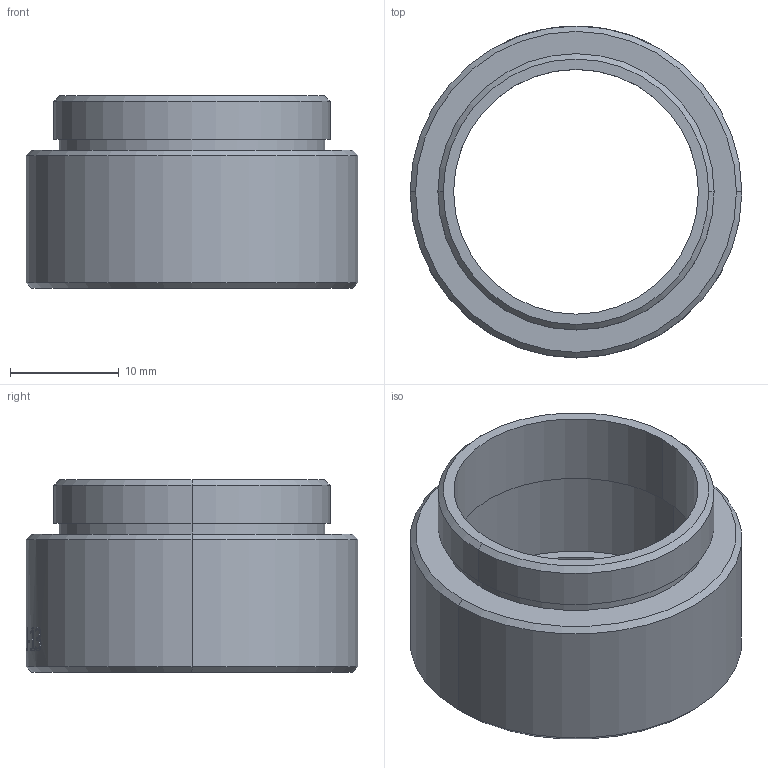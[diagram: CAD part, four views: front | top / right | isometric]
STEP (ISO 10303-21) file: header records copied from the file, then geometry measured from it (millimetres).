
FILE_DESCRIPTION (( 'STEP AP203' ), '1' );
FILE_NAME ('S1ES1I-13_LR-26_defeature.STEP', '2021-10-22T09:02:13', ( '' ), ( '' ), 'SwSTEP 2.0', 'SolidWorks 2019', '' );
FILE_SCHEMA (( 'CONFIG_CONTROL_DESIGN' ));
Length unit declared in the file: millimetre
Products named in the file (1): S1ES1I-13_LR-26_defeature
Bounding box: 30.5 x 30.5 x 17.7 mm (x, y, z)
Volume: 3640.7 mm3; surface area: 4184.2 mm2
Topology: 2 solids, 2 shells, 167 faces, 444 edges, 293 vertices
Faces by surface type: bspline 86, plane 45, cylinder 25, cone 11
Entity records: 16889 total; most frequent: CARTESIAN_POINT 13418, ORIENTED_EDGE 888, EDGE_CURVE 444, DIRECTION 389, VERTEX_POINT 293, B_SPLINE_CURVE_WITH_KNOTS 248, EDGE_LOOP 183, FACE_OUTER_BOUND 167
